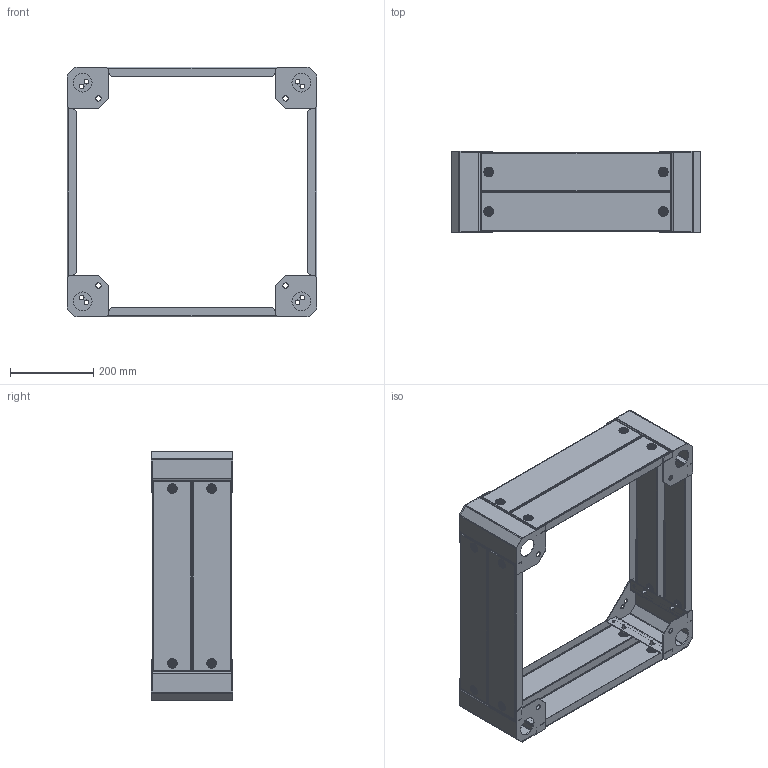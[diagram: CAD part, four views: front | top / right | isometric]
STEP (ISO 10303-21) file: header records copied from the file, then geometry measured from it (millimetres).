
FILE_DESCRIPTION (( 'STEP AP203' ), '1' );
FILE_NAME ('ZA 60.60 IH 诸觐朦 蝈脲觐祆箜桕圉桀眄.STEP', '2025-09-23T05:35:37', ( '' ), ( '' ), 'SwSTEP 2.0', 'SolidWorks 2022', '' );
FILE_SCHEMA (( 'CONFIG_CONTROL_DESIGN' ));
Length unit declared in the file: millimetre
Products named in the file (3): ZA 60.60 IH Цоколь телекоммуникационный; Z 200 I Угловой элемент цоколя телекоммуникационного; Z 100.600 I Панель цоколя телекоммуникационного (EPLAN)_Z 100.600 I Панель цоколя телекоммуникационного
Assembly tree (12 placements, depth 2):
  ZA 60.60 IH Цоколь телекоммуникационный
    Z 200 I Угловой элемент цоколя телекоммуникационного  x4
    Z 100.600 I Панель цоколя телекоммуникационного (EPLAN)_Z 100.600 I Панель цоколя телекоммуникационного  x8
Bounding box: 600.04 x 195 x 600.04 mm (x, y, z)
Volume: 1089017.1 mm3; surface area: 1530601.4 mm2
Topology: 28 solids, 28 shells, 1424 faces, 3560 edges, 2240 vertices
Faces by surface type: plane 704, cylinder 368, torus 192, cone 128, sphere 32
Entity records: 7435 total; most frequent: DIRECTION 1256, CARTESIAN_POINT 1197, ORIENTED_EDGE 1140, EDGE_CURVE 570, AXIS2_PLACEMENT_3D 457, VERTEX_POINT 366, VECTOR 342, LINE 342
